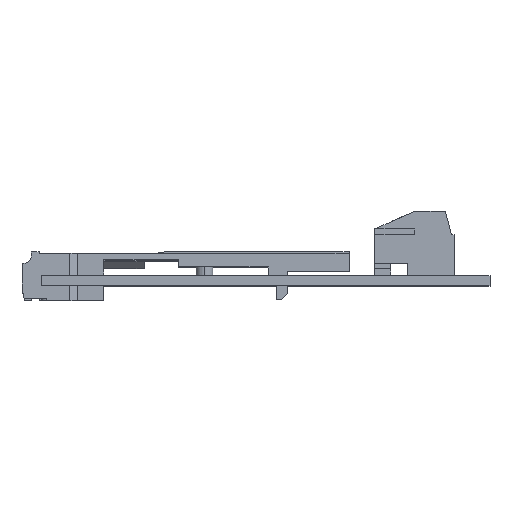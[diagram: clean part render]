
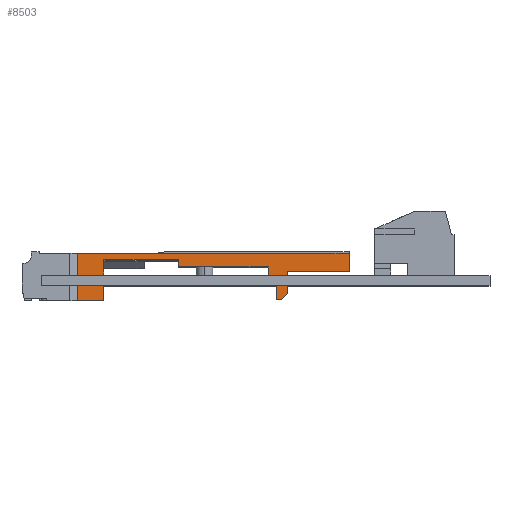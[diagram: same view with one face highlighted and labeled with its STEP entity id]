
A CAD part, top view. The second image highlights one B-rep face of the part: STEP entity #8503.
In plain terms, the highlighted planar face has unit normal (0, 0, 1).
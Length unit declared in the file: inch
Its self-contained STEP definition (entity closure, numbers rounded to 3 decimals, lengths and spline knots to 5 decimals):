
#43 = VECTOR ( 'NONE', #6546, 39.37008 ) ;
#53 = DIRECTION ( 'NONE',  ( 0.707, 0.707, 0. ) ) ;
#311 = DIRECTION ( 'NONE',  ( 0., 0., -1. ) ) ;
#565 = VERTEX_POINT ( 'NONE', #5622 ) ;
#635 = LINE ( 'NONE', #7683, #4250 ) ;
#803 = EDGE_CURVE ( 'NONE', #10286, #11194, #9851, .T. ) ;
#920 = CARTESIAN_POINT ( 'NONE',  ( 0.66107, 1.53143, 2.84632 ) ) ;
#985 = EDGE_CURVE ( 'NONE', #11194, #8849, #16387, .T. ) ;
#1061 = CARTESIAN_POINT ( 'NONE',  ( 0.00757, 1.59143, 2.84632 ) ) ;
#1228 = CARTESIAN_POINT ( 'NONE',  ( -0.66743, 1.68443, 2.84632 ) ) ;
#1354 = DIRECTION ( 'NONE',  ( -1., 0., 0. ) ) ;
#1447 = VECTOR ( 'NONE', #12579, 39.37008 ) ;
#1596 = CARTESIAN_POINT ( 'NONE',  ( 0.61257, 1.56143, 2.84632 ) ) ;
#1600 = CARTESIAN_POINT ( 'NONE',  ( 0.73957, 1.56143, 2.84632 ) ) ;
#1679 = DIRECTION ( 'NONE',  ( 0., 1., 0. ) ) ;
#1690 = VERTEX_POINT ( 'NONE', #4005 ) ;
#2377 = EDGE_CURVE ( 'NONE', #8098, #1690, #9598, .T. ) ;
#2389 = VECTOR ( 'NONE', #15099, 39.37008 ) ;
#2962 = LINE ( 'NONE', #920, #13580 ) ;
#3008 = CARTESIAN_POINT ( 'NONE',  ( 0.60757, 1.56143, 2.84632 ) ) ;
#3131 = EDGE_CURVE ( 'NONE', #16392, #18743, #4729, .T. ) ;
#3165 = CARTESIAN_POINT ( 'NONE',  ( 0.69457, 1.37243, 2.84632 ) ) ;
#3444 = CARTESIAN_POINT ( 'NONE',  ( 0.60757, 1.59143, 2.84632 ) ) ;
#4005 = CARTESIAN_POINT ( 'NONE',  ( -0.66743, 1.68443, 2.84632 ) ) ;
#4250 = VECTOR ( 'NONE', #1679, 39.37008 ) ;
#4265 = CARTESIAN_POINT ( 'NONE',  ( 0.66107, 1.37243, 2.84632 ) ) ;
#4331 = CARTESIAN_POINT ( 'NONE',  ( -0.66743, 1.68143, 2.84632 ) ) ;
#4372 = DIRECTION ( 'NONE',  ( -1., 0., 0. ) ) ;
#4729 = LINE ( 'NONE', #9205, #14351 ) ;
#4763 = VERTEX_POINT ( 'NONE', #1596 ) ;
#5007 = EDGE_CURVE ( 'NONE', #7205, #565, #14142, .T. ) ;
#5081 = CARTESIAN_POINT ( 'NONE',  ( -0.66743, 1.36643, 2.84632 ) ) ;
#5119 = VECTOR ( 'NONE', #13525, 39.37008 ) ;
#5130 = EDGE_CURVE ( 'NONE', #10286, #8098, #13916, .T. ) ;
#5389 = LINE ( 'NONE', #1061, #16445 ) ;
#5588 = ORIENTED_EDGE ( 'NONE', *, *, #5007, .T. ) ;
#5622 = CARTESIAN_POINT ( 'NONE',  ( 0.66107, 1.53143, 2.84632 ) ) ;
#6202 = DIRECTION ( 'NONE',  ( -1., 0., 0. ) ) ;
#6405 = ORIENTED_EDGE ( 'NONE', *, *, #19182, .F. ) ;
#6414 = EDGE_CURVE ( 'NONE', #8126, #8849, #14519, .T. ) ;
#6450 = PLANE ( 'NONE',  #7674 ) ;
#6511 = VECTOR ( 'NONE', #9353, 39.37008 ) ;
#6546 = DIRECTION ( 'NONE',  ( 0., 1., 0. ) ) ;
#6723 = VECTOR ( 'NONE', #53, 39.37008 ) ;
#6842 = DIRECTION ( 'NONE',  ( 1., 0., 0. ) ) ;
#7205 = VERTEX_POINT ( 'NONE', #14434 ) ;
#7400 = VECTOR ( 'NONE', #6842, 39.37008 ) ;
#7504 = ORIENTED_EDGE ( 'NONE', *, *, #14651, .F. ) ;
#7606 = ORIENTED_EDGE ( 'NONE', *, *, #985, .T. ) ;
#7674 = AXIS2_PLACEMENT_3D ( 'NONE', #7943, #311, #15746 ) ;
#7683 = CARTESIAN_POINT ( 'NONE',  ( 0.00757, 1.36643, 2.84632 ) ) ;
#7688 = CARTESIAN_POINT ( 'NONE',  ( 1.14857, 1.68443, 2.84632 ) ) ;
#7943 = CARTESIAN_POINT ( 'NONE',  ( -0.66743, 1.56143, 2.84632 ) ) ;
#8098 = VERTEX_POINT ( 'NONE', #15011 ) ;
#8126 = VERTEX_POINT ( 'NONE', #19998 ) ;
#8175 = VERTEX_POINT ( 'NONE', #15342 ) ;
#8236 = VERTEX_POINT ( 'NONE', #10571 ) ;
#8251 = LINE ( 'NONE', #13957, #43 ) ;
#8296 = DIRECTION ( 'NONE',  ( 0., 1., 0. ) ) ;
#8402 = EDGE_CURVE ( 'NONE', #9449, #8126, #635, .T. ) ;
#8503 = ADVANCED_FACE ( 'NONE', ( #18748 ), #6450, .F. ) ;
#8516 = CARTESIAN_POINT ( 'NONE',  ( 0.61257, 1.53143, 2.84632 ) ) ;
#8706 = CARTESIAN_POINT ( 'NONE',  ( 0.61257, 1.56143, 2.84632 ) ) ;
#8849 = VERTEX_POINT ( 'NONE', #10988 ) ;
#8925 = VECTOR ( 'NONE', #12606, 39.37008 ) ;
#9205 = CARTESIAN_POINT ( 'NONE',  ( -0.66743, 1.56143, 2.84632 ) ) ;
#9353 = DIRECTION ( 'NONE',  ( 1., 0., 0. ) ) ;
#9449 = VERTEX_POINT ( 'NONE', #10773 ) ;
#9529 = ORIENTED_EDGE ( 'NONE', *, *, #11922, .T. ) ;
#9598 = LINE ( 'NONE', #4331, #2389 ) ;
#9611 = LINE ( 'NONE', #14304, #1447 ) ;
#9808 = ORIENTED_EDGE ( 'NONE', *, *, #18308, .T. ) ;
#9851 = LINE ( 'NONE', #18641, #6511 ) ;
#9943 = ORIENTED_EDGE ( 'NONE', *, *, #14534, .F. ) ;
#10124 = LINE ( 'NONE', #10853, #8925 ) ;
#10218 = EDGE_CURVE ( 'NONE', #4763, #7205, #15526, .T. ) ;
#10238 = VECTOR ( 'NONE', #1354, 39.37008 ) ;
#10286 = VERTEX_POINT ( 'NONE', #5081 ) ;
#10521 = EDGE_CURVE ( 'NONE', #16392, #12911, #8251, .T. ) ;
#10571 = CARTESIAN_POINT ( 'NONE',  ( 0.60757, 1.56143, 2.84632 ) ) ;
#10635 = VERTEX_POINT ( 'NONE', #3444 ) ;
#10773 = CARTESIAN_POINT ( 'NONE',  ( 0.00757, 1.59143, 2.84632 ) ) ;
#10782 = CARTESIAN_POINT ( 'NONE',  ( 0.73957, 1.41743, 2.84632 ) ) ;
#10828 = LINE ( 'NONE', #3165, #6723 ) ;
#10829 = VECTOR ( 'NONE', #8296, 39.37008 ) ;
#10853 = CARTESIAN_POINT ( 'NONE',  ( 0.73957, 1.37243, 2.84632 ) ) ;
#10988 = CARTESIAN_POINT ( 'NONE',  ( -0.49243, 1.63943, 2.84632 ) ) ;
#11194 = VERTEX_POINT ( 'NONE', #12205 ) ;
#11211 = VERTEX_POINT ( 'NONE', #10782 ) ;
#11592 = DIRECTION ( 'NONE',  ( 0., -1., 0. ) ) ;
#11922 = EDGE_CURVE ( 'NONE', #19788, #8175, #9611, .T. ) ;
#12146 = VECTOR ( 'NONE', #14707, 39.37008 ) ;
#12205 = CARTESIAN_POINT ( 'NONE',  ( -0.49243, 1.36643, 2.84632 ) ) ;
#12579 = DIRECTION ( 'NONE',  ( 1., 0., 0. ) ) ;
#12606 = DIRECTION ( 'NONE',  ( 0., 1., 0. ) ) ;
#12911 = VERTEX_POINT ( 'NONE', #7688 ) ;
#12964 = ORIENTED_EDGE ( 'NONE', *, *, #803, .T. ) ;
#13327 = DIRECTION ( 'NONE',  ( -1., 0., 0. ) ) ;
#13446 = ORIENTED_EDGE ( 'NONE', *, *, #17093, .T. ) ;
#13525 = DIRECTION ( 'NONE',  ( 0., 1., 0. ) ) ;
#13580 = VECTOR ( 'NONE', #11592, 39.37008 ) ;
#13916 = LINE ( 'NONE', #19552, #16544 ) ;
#13922 = ORIENTED_EDGE ( 'NONE', *, *, #17964, .T. ) ;
#13957 = CARTESIAN_POINT ( 'NONE',  ( 1.14857, 1.56143, 2.84632 ) ) ;
#14034 = VECTOR ( 'NONE', #4372, 39.37008 ) ;
#14098 = ORIENTED_EDGE ( 'NONE', *, *, #6414, .F. ) ;
#14142 = LINE ( 'NONE', #8516, #7400 ) ;
#14292 = EDGE_CURVE ( 'NONE', #11211, #18743, #10124, .T. ) ;
#14304 = CARTESIAN_POINT ( 'NONE',  ( 0.66107, 1.37243, 2.84632 ) ) ;
#14340 = LINE ( 'NONE', #1228, #10238 ) ;
#14351 = VECTOR ( 'NONE', #6202, 39.37008 ) ;
#14434 = CARTESIAN_POINT ( 'NONE',  ( 0.61257, 1.53143, 2.84632 ) ) ;
#14498 = LINE ( 'NONE', #3008, #5119 ) ;
#14519 = LINE ( 'NONE', #18342, #14034 ) ;
#14534 = EDGE_CURVE ( 'NONE', #10635, #9449, #5389, .T. ) ;
#14651 = EDGE_CURVE ( 'NONE', #8236, #10635, #14498, .T. ) ;
#14685 = CARTESIAN_POINT ( 'NONE',  ( -0.49243, 1.36643, 2.84632 ) ) ;
#14707 = DIRECTION ( 'NONE',  ( 0., -1., 0. ) ) ;
#14749 = ORIENTED_EDGE ( 'NONE', *, *, #2377, .F. ) ;
#15011 = CARTESIAN_POINT ( 'NONE',  ( -0.66743, 1.68143, 2.84632 ) ) ;
#15042 = CARTESIAN_POINT ( 'NONE',  ( -0.66743, 1.56143, 2.84632 ) ) ;
#15099 = DIRECTION ( 'NONE',  ( 0., 1., 0. ) ) ;
#15280 = ORIENTED_EDGE ( 'NONE', *, *, #10521, .T. ) ;
#15342 = CARTESIAN_POINT ( 'NONE',  ( 0.69457, 1.37243, 2.84632 ) ) ;
#15526 = LINE ( 'NONE', #8706, #12146 ) ;
#15746 = DIRECTION ( 'NONE',  ( 1., 0., 0. ) ) ;
#16110 = ORIENTED_EDGE ( 'NONE', *, *, #3131, .F. ) ;
#16387 = LINE ( 'NONE', #14685, #10829 ) ;
#16392 = VERTEX_POINT ( 'NONE', #19014 ) ;
#16429 = EDGE_LOOP ( 'NONE', ( #7606, #14098, #16465, #9943, #7504, #6405, #18746, #5588, #9808, #9529, #13446, #17053, #16110, #15280, #13922, #14749, #17922, #12964 ) ) ;
#16445 = VECTOR ( 'NONE', #13327, 39.37008 ) ;
#16465 = ORIENTED_EDGE ( 'NONE', *, *, #8402, .F. ) ;
#16544 = VECTOR ( 'NONE', #19673, 39.37008 ) ;
#16578 = DIRECTION ( 'NONE',  ( -1., 0., 0. ) ) ;
#17053 = ORIENTED_EDGE ( 'NONE', *, *, #14292, .T. ) ;
#17093 = EDGE_CURVE ( 'NONE', #8175, #11211, #10828, .T. ) ;
#17922 = ORIENTED_EDGE ( 'NONE', *, *, #5130, .F. ) ;
#17964 = EDGE_CURVE ( 'NONE', #12911, #1690, #14340, .T. ) ;
#18091 = LINE ( 'NONE', #15042, #18614 ) ;
#18308 = EDGE_CURVE ( 'NONE', #565, #19788, #2962, .T. ) ;
#18342 = CARTESIAN_POINT ( 'NONE',  ( 0.00757, 1.63943, 2.84632 ) ) ;
#18614 = VECTOR ( 'NONE', #16578, 39.37008 ) ;
#18641 = CARTESIAN_POINT ( 'NONE',  ( -0.49243, 1.36643, 2.84632 ) ) ;
#18743 = VERTEX_POINT ( 'NONE', #1600 ) ;
#18746 = ORIENTED_EDGE ( 'NONE', *, *, #10218, .T. ) ;
#18748 = FACE_OUTER_BOUND ( 'NONE', #16429, .T. ) ;
#19014 = CARTESIAN_POINT ( 'NONE',  ( 1.14857, 1.56143, 2.84632 ) ) ;
#19182 = EDGE_CURVE ( 'NONE', #4763, #8236, #18091, .T. ) ;
#19552 = CARTESIAN_POINT ( 'NONE',  ( -0.66743, 1.56143, 2.84632 ) ) ;
#19673 = DIRECTION ( 'NONE',  ( 0., 1., 0. ) ) ;
#19788 = VERTEX_POINT ( 'NONE', #4265 ) ;
#19998 = CARTESIAN_POINT ( 'NONE',  ( 0.00757, 1.63943, 2.84632 ) ) ;
